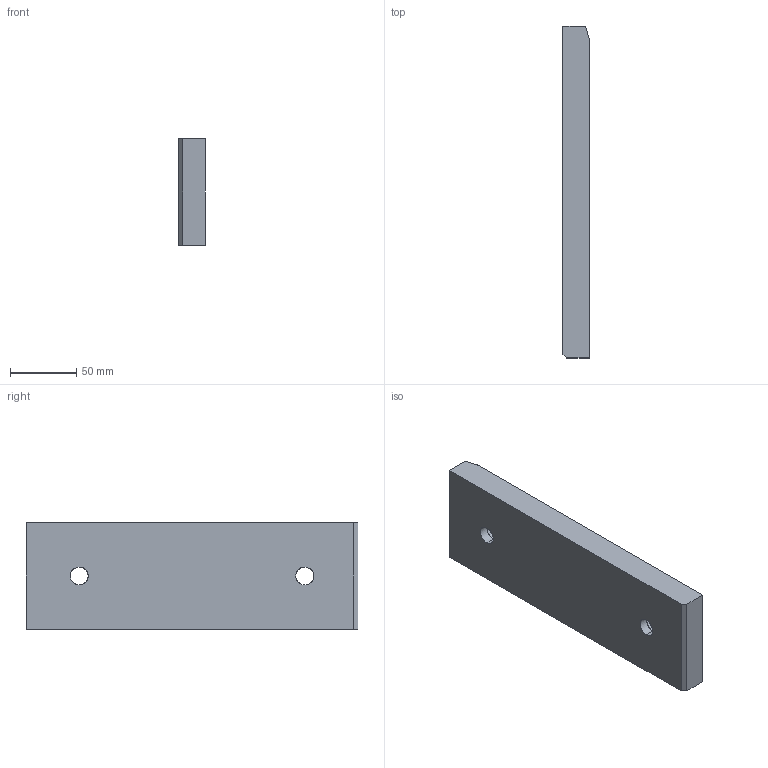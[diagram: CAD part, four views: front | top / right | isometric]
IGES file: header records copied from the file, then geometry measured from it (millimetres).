
Start section: START RECORD GO HERE.
Global section: file name: A915-80X250.igs; native system: DASSAULT SYSTEMES CATIA V5 R20 - www.3ds.com; preprocessor: CATIA Version 5 Release 20 ; author: Utente; organization: NB04-ASUS; date: 20200407.211519; units: millimetre
Bounding box: 20 x 250 x 80 mm (x, y, z)
Surface area: 54337.9 mm2 (no closed solid volume)
Topology: 0 solids, 0 shells, 23 faces, 106 edges, 106 vertices
Faces by surface type: revolution 13, extrusion 10
